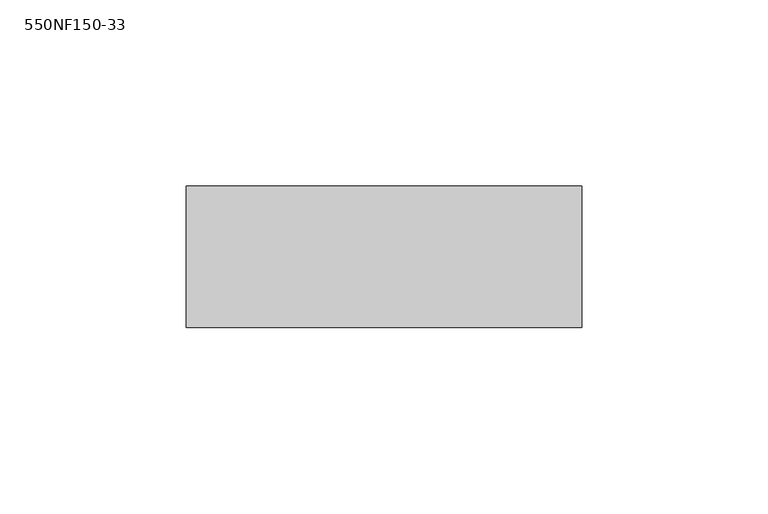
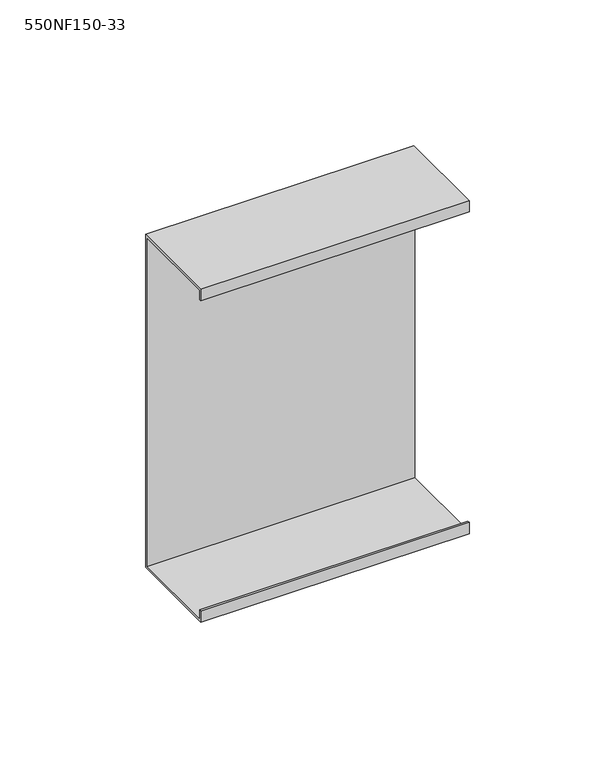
"""IFC4 building model written with IfcOpenShell, lengths in millimetres: beam geometry, BIMSF-SSMA-S : 550NF150-33."""

from ifc_helpers import new_model, si_unit, frame, origin, place, context, project, spatial, polyline, outline, extrude, source, transform, mapped, element, save


def beam_550nf150_33_23c28c1d(model_context):
    return source(origin(), model_context, "Body", "SweptSolid", [
        extrude(outline(polyline([(19.05, 69.85), (19.05, -69.85), (-19.05, -69.85), (-19.05, -65.0748), (-18.1676842, -65.0748), (-18.1676842, -68.9676842), (18.1676842, -68.9676842), (18.1676842, 68.9676842), (-18.1676842, 68.9676842), (-18.1676842, 65.0748), (-19.05, 65.0748), (-19.05, 69.85), (19.05, 69.85)])), frame((-53.18125, 0.0, 0.0), z_axis=(1.0, 0.0, 0.0), x_axis=(0.0, 1.0, 0.0)), (0.0, 0.0, 1.0), 106.3625),
    ])


if __name__ == "__main__":
    model = new_model("IFC4")
    model_context = context("Model", 3, world=origin())
    ifc_project = project(units=[si_unit("LENGTHUNIT", "METRE", prefix="MILLI")], contexts=[model_context])
    site = spatial("IfcSite", under=ifc_project)
    building = spatial("IfcBuilding", under=site)
    placement = place(None, origin())
    beam_550nf150_33_shape = beam_550nf150_33_23c28c1d(model_context)
    element("IfcBeam", 1, ObjectType="BIMSF-SSMA-S : 550NF150-33", at=placement, inside=building, context=model_context, shape_type="MappedRepresentation", body=[
        mapped(beam_550nf150_33_shape, transform((0.0, 0.0, 0.0), x_axis=(1.0, 0.0, 0.0), y_axis=(0.0, 1.0, 0.0), z_axis=(0.0, 0.0, 1.0))),
    ])
    save(model, "model.ifc")
